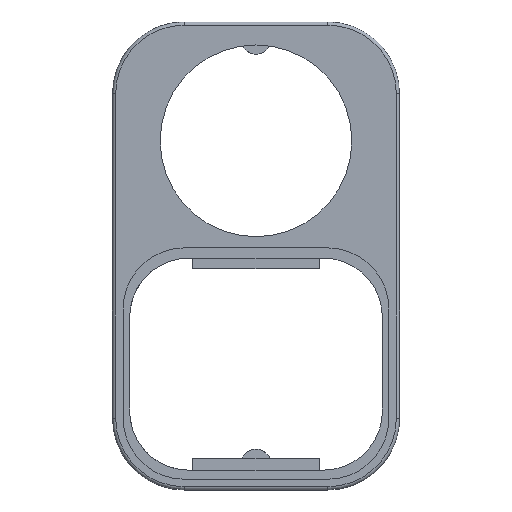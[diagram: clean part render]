
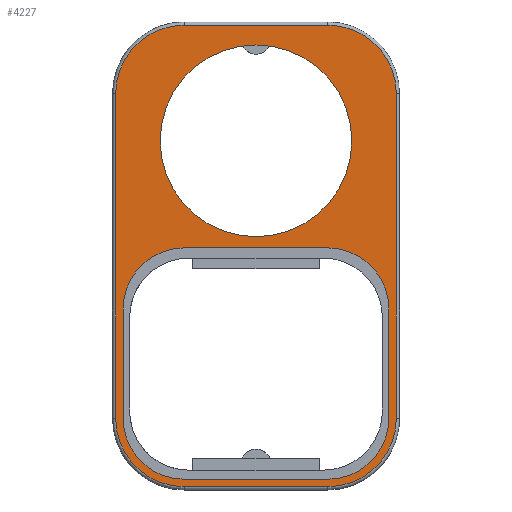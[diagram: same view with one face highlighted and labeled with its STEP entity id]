
A CAD part, top view. The second image highlights one B-rep face of the part: STEP entity #4227.
In plain terms, the highlighted planar face has unit normal (0, 0, 1).
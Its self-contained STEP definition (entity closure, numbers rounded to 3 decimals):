
#3944 = VERTEX_POINT('',#3945);
#3945 = CARTESIAN_POINT('',(41.7,60.8,13.2));
#3951 = EDGE_CURVE('',#3944,#3944,#3952,.T.);
#3952 = CIRCLE('',#3953,16.7);
#3953 = AXIS2_PLACEMENT_3D('',#3954,#3955,#3956);
#3954 = CARTESIAN_POINT('',(25.,60.8,13.2));
#3955 = DIRECTION('',(0.,0.,-1.));
#3956 = DIRECTION('',(1.,0.,0.));
#3970 = VERTEX_POINT('',#3971);
#3971 = CARTESIAN_POINT('',(0.55,12.5,13.2));
#3988 = VERTEX_POINT('',#3989);
#3989 = CARTESIAN_POINT('',(12.5,0.55,13.2));
#3996 = EDGE_CURVE('',#3970,#3988,#3997,.T.);
#3997 = CIRCLE('',#3998,11.95);
#3998 = AXIS2_PLACEMENT_3D('',#3999,#4000,#4001);
#3999 = CARTESIAN_POINT('',(12.5,12.5,13.2));
#4000 = DIRECTION('',(0.,0.,1.));
#4001 = DIRECTION('',(-1.,0.,0.));
#4014 = VERTEX_POINT('',#4015);
#4015 = CARTESIAN_POINT('',(0.55,69.,13.2));
#4022 = EDGE_CURVE('',#4014,#3970,#4023,.T.);
#4023 = LINE('',#4024,#4025);
#4024 = CARTESIAN_POINT('',(0.55,69.,13.2));
#4025 = VECTOR('',#4026,1.);
#4026 = DIRECTION('',(-0.,-1.,-0.));
#4044 = EDGE_CURVE('',#3988,#4045,#4047,.T.);
#4045 = VERTEX_POINT('',#4046);
#4046 = CARTESIAN_POINT('',(37.5,0.55,13.2));
#4047 = LINE('',#4048,#4049);
#4048 = CARTESIAN_POINT('',(12.5,0.55,13.2));
#4049 = VECTOR('',#4050,1.);
#4050 = DIRECTION('',(1.,0.,0.));
#4078 = VERTEX_POINT('',#4079);
#4079 = CARTESIAN_POINT('',(12.5,80.95,13.2));
#4094 = EDGE_CURVE('',#4078,#4014,#4095,.T.);
#4095 = CIRCLE('',#4096,11.95);
#4096 = AXIS2_PLACEMENT_3D('',#4097,#4098,#4099);
#4097 = CARTESIAN_POINT('',(12.5,69.,13.2));
#4098 = DIRECTION('',(0.,-0.,1.));
#4099 = DIRECTION('',(0.,1.,0.));
#4120 = VERTEX_POINT('',#4121);
#4121 = CARTESIAN_POINT('',(49.45,12.5,13.2));
#4128 = EDGE_CURVE('',#4045,#4120,#4129,.T.);
#4129 = CIRCLE('',#4130,11.95);
#4130 = AXIS2_PLACEMENT_3D('',#4131,#4132,#4133);
#4131 = CARTESIAN_POINT('',(37.5,12.5,13.2));
#4132 = DIRECTION('',(-0.,0.,1.));
#4133 = DIRECTION('',(0.,-1.,0.));
#4146 = VERTEX_POINT('',#4147);
#4147 = CARTESIAN_POINT('',(37.5,80.95,13.2));
#4154 = EDGE_CURVE('',#4146,#4078,#4155,.T.);
#4155 = LINE('',#4156,#4157);
#4156 = CARTESIAN_POINT('',(37.5,80.95,13.2));
#4157 = VECTOR('',#4158,1.);
#4158 = DIRECTION('',(-1.,-0.,-0.));
#4176 = EDGE_CURVE('',#4120,#4177,#4179,.T.);
#4177 = VERTEX_POINT('',#4178);
#4178 = CARTESIAN_POINT('',(49.45,69.,13.2));
#4179 = LINE('',#4180,#4181);
#4180 = CARTESIAN_POINT('',(49.45,12.5,13.2));
#4181 = VECTOR('',#4182,1.);
#4182 = DIRECTION('',(0.,1.,0.));
#4216 = EDGE_CURVE('',#4177,#4146,#4217,.T.);
#4217 = CIRCLE('',#4218,11.95);
#4218 = AXIS2_PLACEMENT_3D('',#4219,#4220,#4221);
#4219 = CARTESIAN_POINT('',(37.5,69.,13.2));
#4220 = DIRECTION('',(0.,0.,1.));
#4221 = DIRECTION('',(1.,0.,0.));
#4227 = ADVANCED_FACE('',(#4228,#4238,#4308),#4311,.T.);
#4228 = FACE_BOUND('',#4229,.T.);
#4229 = EDGE_LOOP('',(#4230,#4231,#4232,#4233,#4234,#4235,#4236,#4237));
#4230 = ORIENTED_EDGE('',*,*,#3996,.T.);
#4231 = ORIENTED_EDGE('',*,*,#4044,.T.);
#4232 = ORIENTED_EDGE('',*,*,#4128,.T.);
#4233 = ORIENTED_EDGE('',*,*,#4176,.T.);
#4234 = ORIENTED_EDGE('',*,*,#4216,.T.);
#4235 = ORIENTED_EDGE('',*,*,#4154,.T.);
#4236 = ORIENTED_EDGE('',*,*,#4094,.T.);
#4237 = ORIENTED_EDGE('',*,*,#4022,.T.);
#4238 = FACE_BOUND('',#4239,.T.);
#4239 = EDGE_LOOP('',(#4240,#4250,#4259,#4267,#4276,#4284,#4293,#4301));
#4240 = ORIENTED_EDGE('',*,*,#4241,.T.);
#4241 = EDGE_CURVE('',#4242,#4244,#4246,.T.);
#4242 = VERTEX_POINT('',#4243);
#4243 = CARTESIAN_POINT('',(37.5,1.85,13.2));
#4244 = VERTEX_POINT('',#4245);
#4245 = CARTESIAN_POINT('',(12.5,1.85,13.2));
#4246 = LINE('',#4247,#4248);
#4247 = CARTESIAN_POINT('',(18.75,1.85,13.2));
#4248 = VECTOR('',#4249,1.);
#4249 = DIRECTION('',(-1.,0.,0.));
#4250 = ORIENTED_EDGE('',*,*,#4251,.T.);
#4251 = EDGE_CURVE('',#4244,#4252,#4254,.T.);
#4252 = VERTEX_POINT('',#4253);
#4253 = CARTESIAN_POINT('',(1.85,12.5,13.2));
#4254 = CIRCLE('',#4255,10.65);
#4255 = AXIS2_PLACEMENT_3D('',#4256,#4257,#4258);
#4256 = CARTESIAN_POINT('',(12.5,12.5,13.2));
#4257 = DIRECTION('',(0.,0.,-1.));
#4258 = DIRECTION('',(1.,0.,0.));
#4259 = ORIENTED_EDGE('',*,*,#4260,.T.);
#4260 = EDGE_CURVE('',#4252,#4261,#4263,.T.);
#4261 = VERTEX_POINT('',#4262);
#4262 = CARTESIAN_POINT('',(1.85,31.5,13.2));
#4263 = LINE('',#4264,#4265);
#4264 = CARTESIAN_POINT('',(1.85,26.625,13.2));
#4265 = VECTOR('',#4266,1.);
#4266 = DIRECTION('',(0.,1.,0.));
#4267 = ORIENTED_EDGE('',*,*,#4268,.T.);
#4268 = EDGE_CURVE('',#4261,#4269,#4271,.T.);
#4269 = VERTEX_POINT('',#4270);
#4270 = CARTESIAN_POINT('',(12.5,42.15,13.2));
#4271 = CIRCLE('',#4272,10.65);
#4272 = AXIS2_PLACEMENT_3D('',#4273,#4274,#4275);
#4273 = CARTESIAN_POINT('',(12.5,31.5,13.2));
#4274 = DIRECTION('',(0.,0.,-1.));
#4275 = DIRECTION('',(1.,0.,0.));
#4276 = ORIENTED_EDGE('',*,*,#4277,.F.);
#4277 = EDGE_CURVE('',#4278,#4269,#4280,.T.);
#4278 = VERTEX_POINT('',#4279);
#4279 = CARTESIAN_POINT('',(37.5,42.15,13.2));
#4280 = LINE('',#4281,#4282);
#4281 = CARTESIAN_POINT('',(18.75,42.15,13.2));
#4282 = VECTOR('',#4283,1.);
#4283 = DIRECTION('',(-1.,0.,0.));
#4284 = ORIENTED_EDGE('',*,*,#4285,.T.);
#4285 = EDGE_CURVE('',#4278,#4286,#4288,.T.);
#4286 = VERTEX_POINT('',#4287);
#4287 = CARTESIAN_POINT('',(48.15,31.5,13.2));
#4288 = CIRCLE('',#4289,10.65);
#4289 = AXIS2_PLACEMENT_3D('',#4290,#4291,#4292);
#4290 = CARTESIAN_POINT('',(37.5,31.5,13.2));
#4291 = DIRECTION('',(0.,0.,-1.));
#4292 = DIRECTION('',(1.,0.,0.));
#4293 = ORIENTED_EDGE('',*,*,#4294,.F.);
#4294 = EDGE_CURVE('',#4295,#4286,#4297,.T.);
#4295 = VERTEX_POINT('',#4296);
#4296 = CARTESIAN_POINT('',(48.15,12.5,13.2));
#4297 = LINE('',#4298,#4299);
#4298 = CARTESIAN_POINT('',(48.15,26.625,13.2));
#4299 = VECTOR('',#4300,1.);
#4300 = DIRECTION('',(0.,1.,0.));
#4301 = ORIENTED_EDGE('',*,*,#4302,.T.);
#4302 = EDGE_CURVE('',#4295,#4242,#4303,.T.);
#4303 = CIRCLE('',#4304,10.65);
#4304 = AXIS2_PLACEMENT_3D('',#4305,#4306,#4307);
#4305 = CARTESIAN_POINT('',(37.5,12.5,13.2));
#4306 = DIRECTION('',(0.,0.,-1.));
#4307 = DIRECTION('',(1.,0.,0.));
#4308 = FACE_BOUND('',#4309,.T.);
#4309 = EDGE_LOOP('',(#4310));
#4310 = ORIENTED_EDGE('',*,*,#3951,.T.);
#4311 = PLANE('',#4312);
#4312 = AXIS2_PLACEMENT_3D('',#4313,#4314,#4315);
#4313 = CARTESIAN_POINT('',(25.,40.75,13.2));
#4314 = DIRECTION('',(0.,0.,1.));
#4315 = DIRECTION('',(1.,0.,0.));
